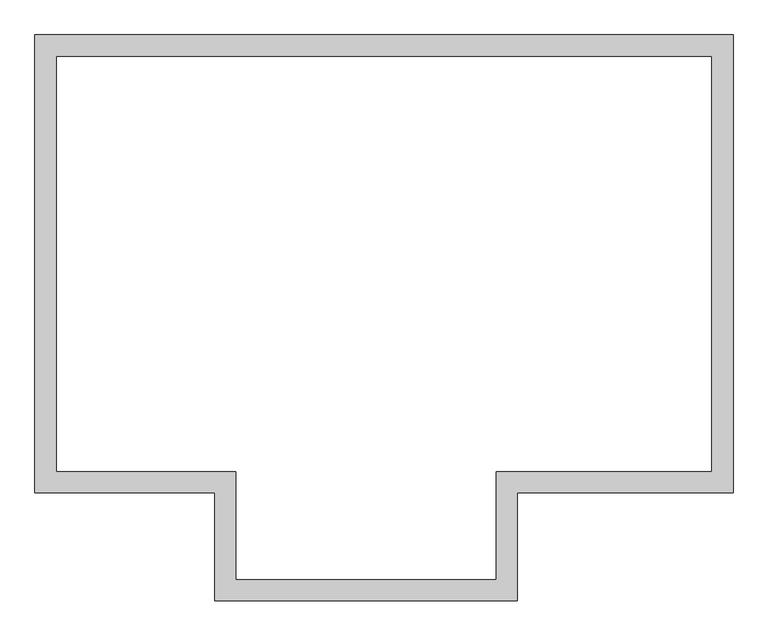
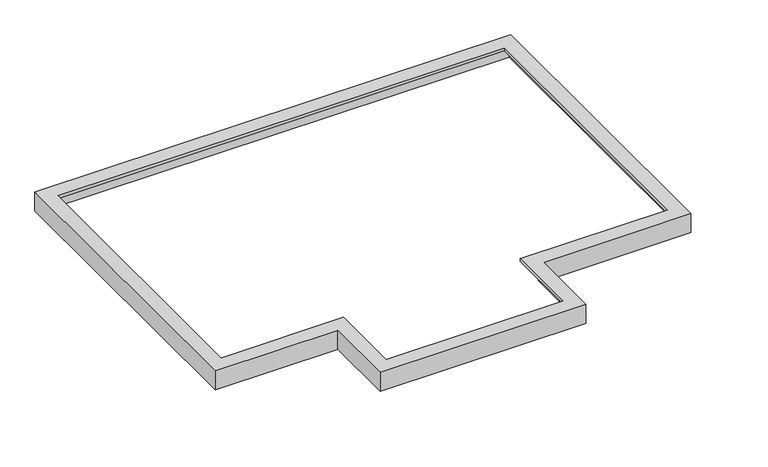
"""IFC4 building model written with IfcOpenShell, lengths in millimetres: proxy geometry, 屋頂 : 屋頂."""

from ifc_helpers import new_model, si_unit, origin, place, context, project, spatial, faceted_brep, source, transform, mapped, element, save


def generic_models_78a03f4a(model_context):
    return source(origin(), model_context, "Body", "Brep", [
        faceted_brep([(8877.4473407, -10064.8205358, 2855.6617328), (8877.4473407, -7064.8205358, 2855.6617328), (8877.4473407, -7064.8205358, 3675.6617328), (8877.4473407, -10064.8205358, 3675.6617328), (8277.4473407, -9464.8205358, 3555.6617328), (8277.4473407, -9464.8205358, 3675.6617328), (8277.4473407, -6464.8205358, 3675.6617328), (8277.4473407, -6464.8205358, 3555.6617328), (8737.4473407, -9924.8205358, 2855.6617328), (8737.4473407, -9924.8205358, 3555.6617328), (8737.4473407, -6924.8205358, 3555.6617328), (8737.4473407, -6924.8205358, 2855.6617328), (14877.4473407, -7064.8205358, 2855.6617328), (14877.4473407, -7064.8205358, 3675.6617328), (14277.4473407, -6464.8205358, 3675.6617328), (14277.4473407, -6464.8205358, 3555.6617328), (14737.4473407, -6924.8205358, 3555.6617328), (14737.4473407, -6924.8205358, 2855.6617328), (14877.4473407, 5660.1794642, 2855.6617328), (14877.4473407, 5660.1794642, 3675.6617328), (14277.4473407, 5060.1794642, 3675.6617328), (14277.4473407, 5060.1794642, 3555.6617328), (14737.4473407, 5520.1794642, 3555.6617328), (14737.4473407, 5520.1794642, 2855.6617328), (-4522.5526593, 5660.1794642, 2855.6617328), (-4522.5526593, 5660.1794642, 3675.6617328), (-3922.5526593, 5060.1794642, 3675.6617328), (-3922.5526593, 5060.1794642, 3555.6617328), (-4382.5526593, 5520.1794642, 3555.6617328), (-4382.5526593, 5520.1794642, 2855.6617328), (-4522.5526593, -7064.8205358, 2855.6617328), (-4522.5526593, -7064.8205358, 3675.6617328), (-3922.5526593, -6464.8205358, 3675.6617328), (-3922.5526593, -6464.8205358, 3555.6617328), (-4382.5526593, -6924.8205358, 3555.6617328), (-4382.5526593, -6924.8205358, 2855.6617328), (477.4473407, -7064.8205358, 2855.6617328), (477.4473407, -7064.8205358, 3675.6617328), (1077.4473407, -6464.8205358, 3675.6617328), (1077.4473407, -6464.8205358, 3555.6617328), (617.4473407, -6924.8205358, 3555.6617328), (617.4473407, -6924.8205358, 2855.6617328), (477.4473407, -10064.8205358, 2855.6617328), (477.4473407, -10064.8205358, 3675.6617328), (1077.4473407, -9464.8205358, 3675.6617328), (1077.4473407, -9464.8205358, 3555.6617328), (617.4473407, -9924.8205358, 3555.6617328), (617.4473407, -9924.8205358, 2855.6617328)], [[[0, 1, 2, 3]], [[4, 5, 6, 7]], [[8, 9, 10, 11]], [[2, 1, 12, 13]], [[7, 6, 14, 15]], [[11, 10, 16, 17]], [[13, 12, 18, 19]], [[15, 14, 20, 21]], [[17, 16, 22, 23]], [[19, 18, 24, 25]], [[21, 20, 26, 27]], [[23, 22, 28, 29]], [[25, 24, 30, 31]], [[27, 26, 32, 33]], [[29, 28, 34, 35]], [[31, 30, 36, 37]], [[33, 32, 38, 39]], [[35, 34, 40, 41]], [[37, 36, 42, 43]], [[39, 38, 44, 45]], [[41, 40, 46, 47]], [[0, 42, 36, 30, 24, 18, 12, 1], [35, 41, 47, 8, 11, 17, 23, 29]], [[43, 42, 0, 3]], [[31, 37, 43, 3, 2, 13, 19, 25], [5, 44, 38, 32, 26, 20, 14, 6]], [[45, 44, 5, 4]], [[9, 46, 40, 34, 28, 22, 16, 10], [33, 39, 45, 4, 7, 15, 21, 27]], [[47, 46, 9, 8]]]),
    ])


if __name__ == "__main__":
    model = new_model("IFC4")
    model_context = context("Model", 3, world=origin())
    ifc_project = project(units=[si_unit("LENGTHUNIT", "METRE", prefix="MILLI")], contexts=[model_context])
    site = spatial("IfcSite", under=ifc_project)
    building = spatial("IfcBuilding", under=site)
    placement = place(None, origin())
    generic_models_shape = generic_models_78a03f4a(model_context)
    element("IfcBuildingElementProxy", 1, Name="屋頂 : 屋頂", ObjectType="屋頂 : 屋頂", at=placement, inside=building, context=model_context, shape_type="MappedRepresentation", body=[
        mapped(generic_models_shape, transform((0.0, 0.0, 0.0), x_axis=(1.0, 0.0, 0.0), y_axis=(0.0, 1.0, 0.0), z_axis=(0.0, 0.0, 1.0))),
    ])
    save(model, "model.ifc")
